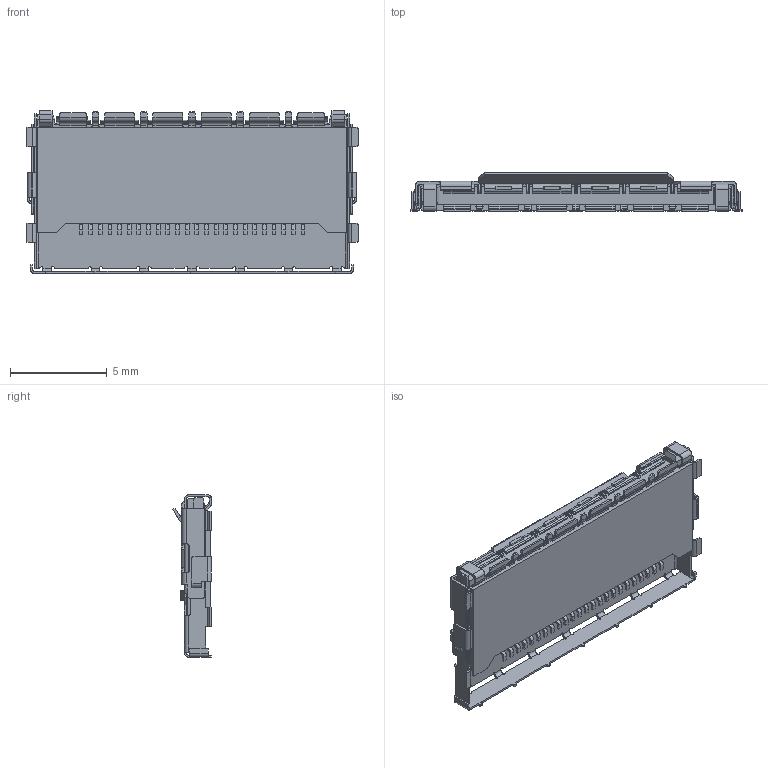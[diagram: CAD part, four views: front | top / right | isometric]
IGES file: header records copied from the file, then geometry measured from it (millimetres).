
Start section: SolidWorks IGES file using analytic representation for surfaces
Global section: file name: C:\Users\ieng2-008\Desktop\20952-024E-02 ASS'Y IGES R3 ALL.IGS; native system: SolidWorks 2017; preprocessor: SolidWorks 2017; author: ieng2-008; date: 200109.103515; units: millimetre
Bounding box: 17.2 x 2 x 8.43 mm (x, y, z)
Surface area: 499.5 mm2 (no closed solid volume)
Topology: 0 solids, 0 shells, 1326 faces, 9621 edges, 9621 vertices
Faces by surface type: bspline 812, revolution 514
